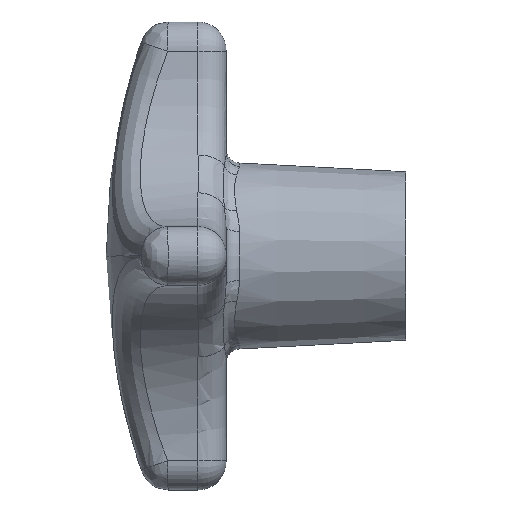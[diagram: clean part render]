
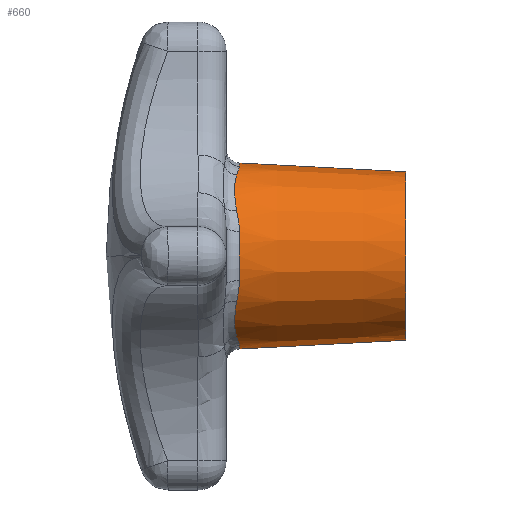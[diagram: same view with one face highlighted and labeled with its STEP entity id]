
A CAD part, left-side view. The second image highlights one B-rep face of the part: STEP entity #660.
In plain terms, the highlighted conical face has half-angle 3 degrees and reference radius 9 mm.
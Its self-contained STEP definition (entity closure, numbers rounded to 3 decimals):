
#13 = CARTESIAN_POINT ( 'NONE',  ( 0., -1.421, 0. ) ) ;
#33 = DIRECTION ( 'NONE',  ( 0., 0., -1. ) ) ;
#133 = CARTESIAN_POINT ( 'NONE',  ( -4.887, -1.126, -8.664 ) ) ;
#176 = EDGE_CURVE ( 'NONE', #1297, #2559, #3150, .T. ) ;
#253 = CARTESIAN_POINT ( 'NONE',  ( -8.664, -1.126, -4.887 ) ) ;
#264 = CARTESIAN_POINT ( 'NONE',  ( -5.659, -0.998, -8.201 ) ) ;
#273 = ORIENTED_EDGE ( 'NONE', *, *, #1177, .F. ) ;
#296 = DIRECTION ( 'NONE',  ( 0., -1., 0. ) ) ;
#307 = ORIENTED_EDGE ( 'NONE', *, *, #2775, .T. ) ;
#308 = CARTESIAN_POINT ( 'NONE',  ( -4.887, -1.126, 8.664 ) ) ;
#448 = CARTESIAN_POINT ( 'NONE',  ( -9.577, -1.421, 2.63 ) ) ;
#450 = CARTESIAN_POINT ( 'NONE',  ( -4.887, -1.126, 8.664 ) ) ;
#481 = VERTEX_POINT ( 'NONE', #2135 ) ;
#504 = CIRCLE ( 'NONE', #3189, 9.932 ) ;
#548 = FACE_OUTER_BOUND ( 'NONE', #1485, .T. ) ;
#568 = ORIENTED_EDGE ( 'NONE', *, *, #747, .T. ) ;
#597 = CARTESIAN_POINT ( 'NONE',  ( -2.63, -1.421, 9.577 ) ) ;
#660 = ADVANCED_FACE ( 'NONE', ( #548 ), #3148, .T. ) ;
#699 = DIRECTION ( 'NONE',  ( 0., -1., 0. ) ) ;
#732 = CARTESIAN_POINT ( 'NONE',  ( -6.377, -0.936, 7.661 ) ) ;
#747 = EDGE_CURVE ( 'NONE', #2413, #3352, #2082, .T. ) ;
#817 = DIRECTION ( 'NONE',  ( 0., 0., 1. ) ) ;
#822 = VECTOR ( 'NONE', #2989, 1000. ) ;
#883 = CARTESIAN_POINT ( 'NONE',  ( -4.887, -1.126, 8.664 ) ) ;
#924 = EDGE_CURVE ( 'NONE', #481, #1029, #1495, .T. ) ;
#991 = DIRECTION ( 'NONE',  ( 0., 0.999, -0.052 ) ) ;
#1003 = CARTESIAN_POINT ( 'NONE',  ( -4.177, -1.276, -9.056 ) ) ;
#1006 = CARTESIAN_POINT ( 'NONE',  ( 0., -19.2, -9. ) ) ;
#1012 = CARTESIAN_POINT ( 'NONE',  ( 0., -19.2, 0. ) ) ;
#1022 = CARTESIAN_POINT ( 'NONE',  ( -9.056, -1.276, 4.177 ) ) ;
#1024 = EDGE_CURVE ( 'NONE', #2850, #1297, #3174, .T. ) ;
#1029 = VERTEX_POINT ( 'NONE', #2924 ) ;
#1042 = CARTESIAN_POINT ( 'NONE',  ( -4.887, -1.126, -8.664 ) ) ;
#1064 = EDGE_CURVE ( 'NONE', #1805, #2850, #2575, .T. ) ;
#1067 = CARTESIAN_POINT ( 'NONE',  ( -5.659, -0.998, 8.201 ) ) ;
#1068 = CARTESIAN_POINT ( 'NONE',  ( 0., -1.421, 9.932 ) ) ;
#1130 = CARTESIAN_POINT ( 'NONE',  ( -8.201, -0.998, -5.659 ) ) ;
#1135 = ORIENTED_EDGE ( 'NONE', *, *, #1592, .T. ) ;
#1143 = CARTESIAN_POINT ( 'NONE',  ( -6.72, -0.921, -7.363 ) ) ;
#1155 = EDGE_CURVE ( 'NONE', #3352, #2519, #3678, .T. ) ;
#1164 = AXIS2_PLACEMENT_3D ( 'NONE', #1012, #2267, #2254 ) ;
#1168 = ORIENTED_EDGE ( 'NONE', *, *, #924, .T. ) ;
#1177 = EDGE_CURVE ( 'NONE', #2413, #1029, #3420, .T. ) ;
#1238 = CARTESIAN_POINT ( 'NONE',  ( -9.056, -1.276, -4.177 ) ) ;
#1255 = CARTESIAN_POINT ( 'NONE',  ( -8.664, -1.126, -4.887 ) ) ;
#1297 = VERTEX_POINT ( 'NONE', #1255 ) ;
#1315 = CARTESIAN_POINT ( 'NONE',  ( -9.358, -1.421, 3.429 ) ) ;
#1328 = EDGE_CURVE ( 'NONE', #2842, #1805, #2324, .T. ) ;
#1355 = CARTESIAN_POINT ( 'NONE',  ( -6.718, -0.921, 7.365 ) ) ;
#1364 = CARTESIAN_POINT ( 'NONE',  ( 0., -19.2, 9. ) ) ;
#1485 = EDGE_LOOP ( 'NONE', ( #273, #568, #3065, #1135, #2978, #3596, #1773, #1682, #1893, #3447, #307, #1168 ) ) ;
#1495 = CIRCLE ( 'NONE', #3079, 9.932 ) ;
#1592 = EDGE_CURVE ( 'NONE', #2519, #3534, #504, .T. ) ;
#1682 = ORIENTED_EDGE ( 'NONE', *, *, #1064, .T. ) ;
#1690 = B_SPLINE_CURVE_WITH_KNOTS ( 'NONE', 3,
 ( #597, #2042, #1764, #308 ),
 .UNSPECIFIED., .F., .F.,
 ( 4, 4 ),
 ( 0., 0.002 ),
 .UNSPECIFIED. ) ;
#1764 = CARTESIAN_POINT ( 'NONE',  ( -4.177, -1.276, 9.056 ) ) ;
#1773 = ORIENTED_EDGE ( 'NONE', *, *, #1328, .T. ) ;
#1783 = CARTESIAN_POINT ( 'NONE',  ( -8.664, -1.126, -4.887 ) ) ;
#1803 = CARTESIAN_POINT ( 'NONE',  ( -9.358, -1.421, -3.429 ) ) ;
#1805 = VERTEX_POINT ( 'NONE', #3250 ) ;
#1844 = CARTESIAN_POINT ( 'NONE',  ( -2.63, -1.421, 9.577 ) ) ;
#1880 = CARTESIAN_POINT ( 'NONE',  ( -8.446, -1.043, 5.281 ) ) ;
#1893 = ORIENTED_EDGE ( 'NONE', *, *, #1024, .T. ) ;
#2005 = VECTOR ( 'NONE', #991, 1000. ) ;
#2042 = CARTESIAN_POINT ( 'NONE',  ( -3.429, -1.421, 9.358 ) ) ;
#2073 = AXIS2_PLACEMENT_3D ( 'NONE', #2234, #2540, #817 ) ;
#2082 = CIRCLE ( 'NONE', #2073, 9. ) ;
#2088 = CARTESIAN_POINT ( 'NONE',  ( -9.577, -1.421, -2.63 ) ) ;
#2090 = CARTESIAN_POINT ( 'NONE',  ( -5.281, -1.043, -8.446 ) ) ;
#2119 = CARTESIAN_POINT ( 'NONE',  ( 0., -1.421, 0. ) ) ;
#2135 = CARTESIAN_POINT ( 'NONE',  ( -2.63, -1.421, -9.577 ) ) ;
#2234 = CARTESIAN_POINT ( 'NONE',  ( 0., -19.2, 0. ) ) ;
#2248 = CARTESIAN_POINT ( 'NONE',  ( -9.577, -1.421, -2.63 ) ) ;
#2254 = DIRECTION ( 'NONE',  ( 0., 0., 1. ) ) ;
#2267 = DIRECTION ( 'NONE',  ( 0., 1., 0. ) ) ;
#2313 = CARTESIAN_POINT ( 'NONE',  ( 0., -1.421, 0. ) ) ;
#2324 = B_SPLINE_CURVE_WITH_KNOTS ( 'NONE', 3,
 ( #3593, #1022, #1315, #448 ),
 .UNSPECIFIED., .F., .F.,
 ( 4, 4 ),
 ( 0., 0.002 ),
 .UNSPECIFIED. ) ;
#2402 = DIRECTION ( 'NONE',  ( 0., 0., -1. ) ) ;
#2413 = VERTEX_POINT ( 'NONE', #2942 ) ;
#2458 = CARTESIAN_POINT ( 'NONE',  ( -5.282, -1.043, 8.446 ) ) ;
#2501 = CARTESIAN_POINT ( 'NONE',  ( -4.887, -1.126, -8.664 ) ) ;
#2519 = VERTEX_POINT ( 'NONE', #1068 ) ;
#2540 = DIRECTION ( 'NONE',  ( 0., 1., 0. ) ) ;
#2553 = CARTESIAN_POINT ( 'NONE',  ( -8.446, -1.043, -5.282 ) ) ;
#2559 = VERTEX_POINT ( 'NONE', #2501 ) ;
#2560 = B_SPLINE_CURVE_WITH_KNOTS ( 'NONE', 3,
 ( #1042, #1003, #3321, #2703 ),
 .UNSPECIFIED., .F., .F.,
 ( 4, 4 ),
 ( 0., 0.002 ),
 .UNSPECIFIED. ) ;
#2575 = CIRCLE ( 'NONE', #3658, 9.932 ) ;
#2578 = CARTESIAN_POINT ( 'NONE',  ( -6.377, -0.936, -7.66 ) ) ;
#2703 = CARTESIAN_POINT ( 'NONE',  ( -2.63, -1.421, -9.577 ) ) ;
#2775 = EDGE_CURVE ( 'NONE', #2559, #481, #2560, .T. ) ;
#2842 = VERTEX_POINT ( 'NONE', #3111 ) ;
#2850 = VERTEX_POINT ( 'NONE', #2248 ) ;
#2924 = CARTESIAN_POINT ( 'NONE',  ( 0., -1.421, -9.932 ) ) ;
#2942 = CARTESIAN_POINT ( 'NONE',  ( 0., -19.2, -9. ) ) ;
#2977 = CARTESIAN_POINT ( 'NONE',  ( 0., -19.2, 9. ) ) ;
#2978 = ORIENTED_EDGE ( 'NONE', *, *, #3240, .T. ) ;
#2989 = DIRECTION ( 'NONE',  ( 0., 0.999, 0.052 ) ) ;
#3040 = CARTESIAN_POINT ( 'NONE',  ( -7.363, -0.921, 6.72 ) ) ;
#3065 = ORIENTED_EDGE ( 'NONE', *, *, #1155, .T. ) ;
#3079 = AXIS2_PLACEMENT_3D ( 'NONE', #13, #296, #33 ) ;
#3111 = CARTESIAN_POINT ( 'NONE',  ( -8.664, -1.126, 4.887 ) ) ;
#3114 = CARTESIAN_POINT ( 'NONE',  ( -7.661, -0.936, -6.377 ) ) ;
#3148 = CONICAL_SURFACE ( 'NONE', #1164, 9., 0.052 ) ;
#3150 = B_SPLINE_CURVE_WITH_KNOTS ( 'NONE', 3,
 ( #253, #2553, #1130, #3114, #3687, #1143, #2578, #264, #2090, #133 ),
 .UNSPECIFIED., .F., .F.,
 ( 4, 2, 2, 2, 4 ),
 ( 0., 0.001, 0.003, 0.004, 0.005 ),
 .UNSPECIFIED. ) ;
#3174 = B_SPLINE_CURVE_WITH_KNOTS ( 'NONE', 3,
 ( #2088, #1803, #1238, #1783 ),
 .UNSPECIFIED., .F., .F.,
 ( 4, 4 ),
 ( 0., 0.002 ),
 .UNSPECIFIED. ) ;
#3189 = AXIS2_PLACEMENT_3D ( 'NONE', #2313, #3454, #3198 ) ;
#3198 = DIRECTION ( 'NONE',  ( 0., 0., -1. ) ) ;
#3240 = EDGE_CURVE ( 'NONE', #3534, #3478, #1690, .T. ) ;
#3250 = CARTESIAN_POINT ( 'NONE',  ( -9.577, -1.421, 2.63 ) ) ;
#3299 = B_SPLINE_CURVE_WITH_KNOTS ( 'NONE', 3,
 ( #450, #2458, #1067, #732, #1355, #3040, #3586, #3574, #1880, #3342 ),
 .UNSPECIFIED., .F., .F.,
 ( 4, 2, 2, 2, 4 ),
 ( 0., 0.001, 0.003, 0.004, 0.005 ),
 .UNSPECIFIED. ) ;
#3321 = CARTESIAN_POINT ( 'NONE',  ( -3.429, -1.421, -9.358 ) ) ;
#3342 = CARTESIAN_POINT ( 'NONE',  ( -8.664, -1.126, 4.887 ) ) ;
#3352 = VERTEX_POINT ( 'NONE', #1364 ) ;
#3420 = LINE ( 'NONE', #1006, #2005 ) ;
#3447 = ORIENTED_EDGE ( 'NONE', *, *, #176, .T. ) ;
#3454 = DIRECTION ( 'NONE',  ( 0., -1., 0. ) ) ;
#3478 = VERTEX_POINT ( 'NONE', #883 ) ;
#3534 = VERTEX_POINT ( 'NONE', #1844 ) ;
#3574 = CARTESIAN_POINT ( 'NONE',  ( -8.201, -0.998, 5.659 ) ) ;
#3586 = CARTESIAN_POINT ( 'NONE',  ( -7.66, -0.936, 6.377 ) ) ;
#3593 = CARTESIAN_POINT ( 'NONE',  ( -8.664, -1.126, 4.887 ) ) ;
#3596 = ORIENTED_EDGE ( 'NONE', *, *, #3623, .T. ) ;
#3623 = EDGE_CURVE ( 'NONE', #3478, #2842, #3299, .T. ) ;
#3658 = AXIS2_PLACEMENT_3D ( 'NONE', #2119, #699, #2402 ) ;
#3678 = LINE ( 'NONE', #2977, #822 ) ;
#3687 = CARTESIAN_POINT ( 'NONE',  ( -7.365, -0.921, -6.718 ) ) ;
